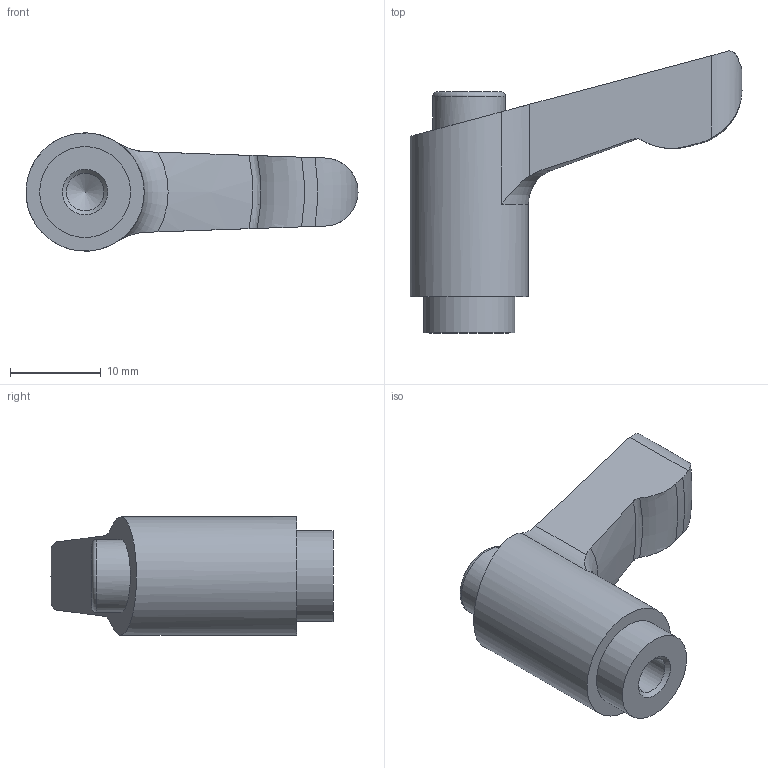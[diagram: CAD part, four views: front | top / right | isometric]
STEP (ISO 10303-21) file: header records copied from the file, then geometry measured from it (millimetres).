
FILE_DESCRIPTION( ( 'STEP AP203' ), '1' );
FILE_NAME( 'C:/Temp/Ganter_Step_05_03_2020/data/2_1/gn303_1/gn303_1_b/Adjustable hand lever GN 303.1-30-M5-SW-O.stp', '2020-03-05T11:21:52', ( 'License CC BY-ND 4.0' ), ( 'CADENAS' ), ' ', 'PARTsolutions', ' ' );
FILE_SCHEMA( ( 'CONFIG_CONTROL_DESIGN' ) );
Length unit declared in the file: millimetre
Products named in the file (1): _Adjustable hand lever GN 303.1-30-M5-SW-O
Bounding box: 36.5 x 31 x 12.99 mm (x, y, z)
Volume: 4399.4 mm3; surface area: 2146.6 mm2
Topology: 1 solids, 1 shells, 24 faces, 59 edges, 39 vertices
Faces by surface type: cylinder 7, plane 6, torus 6, cone 5
Full cylindrical faces by diameter (mm): 4.134 x1, 8 x1, 10 x1, 13 x1
Entity records: 826 total; most frequent: CARTESIAN_POINT 275, DIRECTION 100, ORIENTED_EDGE 98, EDGE_CURVE 49, AXIS2_PLACEMENT_3D 46, VERTEX_POINT 37, EDGE_LOOP 33, FACE_OUTER_BOUND 29
